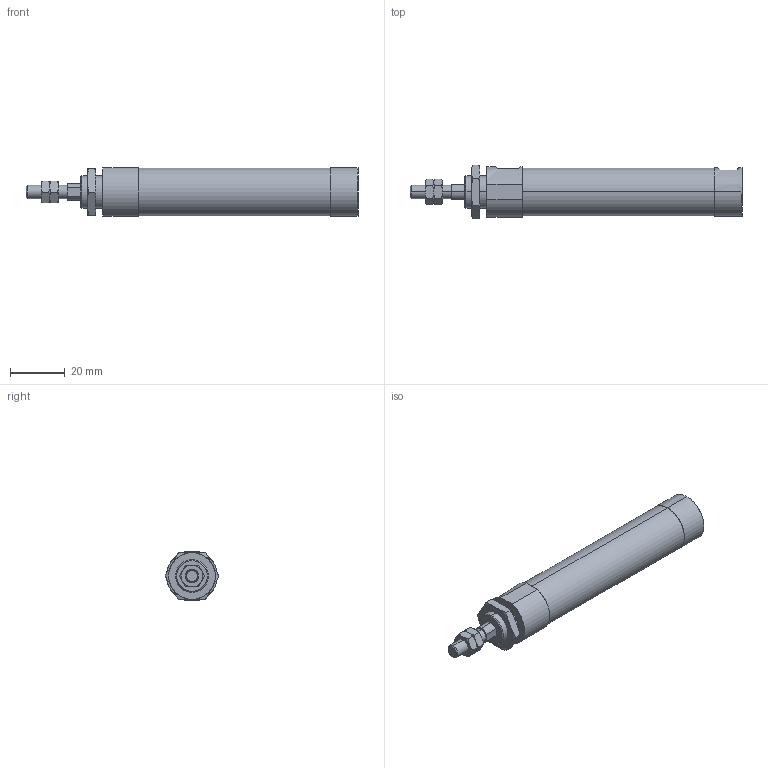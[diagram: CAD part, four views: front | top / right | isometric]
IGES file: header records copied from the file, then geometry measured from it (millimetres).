
Start section: SolidWorks IGES file using analytic representation for surfaces
Global section: file name: C:\Users\Toshiba\Desktop\ZGU2-16-45-N.IGS; native system: SolidWorks 2014; preprocessor: SolidWorks 2014; author: Toshiba; date: 160331.090028; units: millimetre
Bounding box: 121 x 19.63 x 17.6 mm (x, y, z)
Surface area: 7506 mm2 (no closed solid volume)
Topology: 0 solids, 0 shells, 108 faces, 1684 edges, 1680 vertices
Faces by surface type: bspline 77, revolution 31
